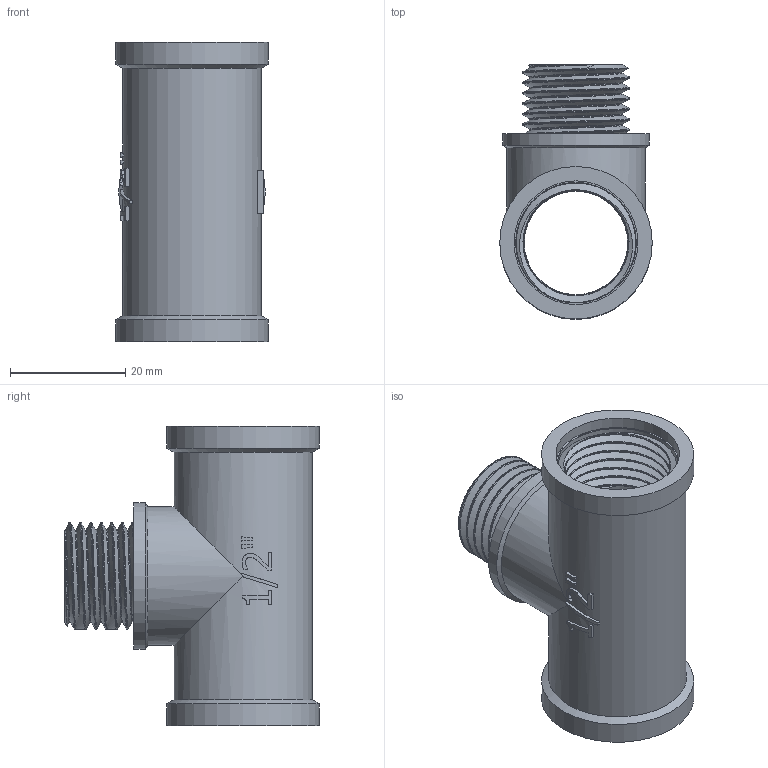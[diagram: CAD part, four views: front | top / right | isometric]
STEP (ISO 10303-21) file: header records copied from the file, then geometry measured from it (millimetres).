
FILE_DESCRIPTION(/* description */ (''),/* implementation_level */ '2;1');
FILE_NAME(/* name */ 'C:\Users\Doom\Desktop\Фадотех\Резьба\T11 18.03.2020\T11 18.03.2020.stp',/* time_stamp */ '2022-01-20T00:51:29+02:00',/* author */ ('Doom'),/* organization */ (''),/* preprocessor_version */ 'ST-DEVELOPER v18',/* originating_system */ 'Autodesk Inventor 2020',/* authorisation */ '');
FILE_SCHEMA (('AUTOMOTIVE_DESIGN { 1 0 10303 214 3 1 1 }'));
Length unit declared in the file: millimetre
Products named in the file (1): T11 18.03.2020
Bounding box: 26.5 x 44.25 x 52 mm (x, y, z)
Volume: 13273.3 mm3; surface area: 16939.5 mm2
Topology: 4 solids, 4 shells, 150 faces, 413 edges, 277 vertices
Faces by surface type: plane 63, cylinder 47, bspline 36, cone 4
Full cylindrical faces by diameter (mm): 15.5 x1, 15.94 x2, 18 x1, 18.254 x14, 18.63 x7, 20.944 x4, 21.5 x2, 24 x2, 25.5 x1, 26.5 x2
Entity records: 16822 total; most frequent: CARTESIAN_POINT 13245, ORIENTED_EDGE 810, DIRECTION 601, EDGE_CURVE 405, VERTEX_POINT 273, AXIS2_PLACEMENT_3D 217, EDGE_LOOP 170, LINE 167
